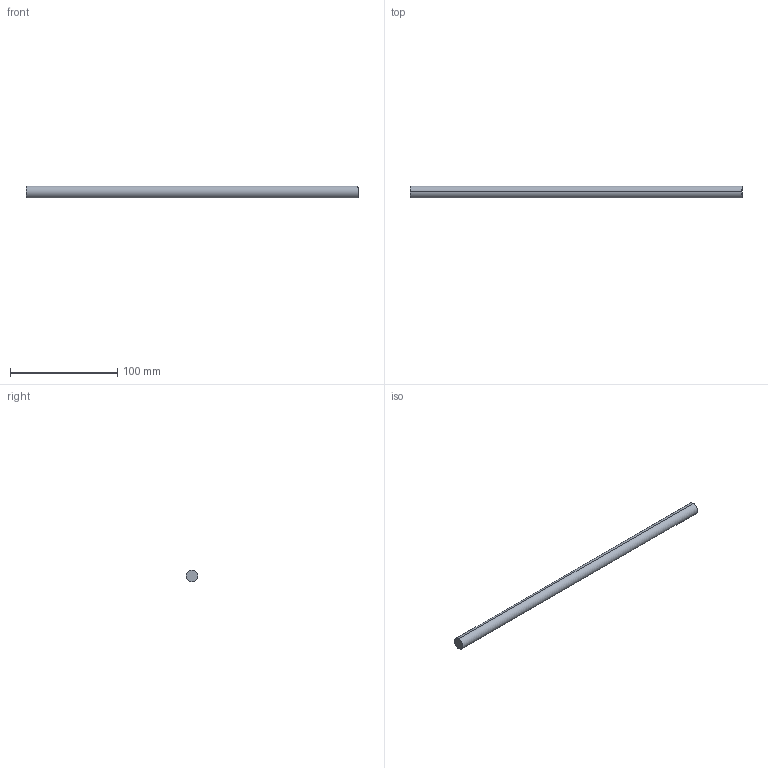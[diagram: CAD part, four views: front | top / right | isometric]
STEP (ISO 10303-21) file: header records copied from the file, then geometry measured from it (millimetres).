
FILE_DESCRIPTION (( 'STEP AP214' ), '1' );
FILE_NAME ('Querreling_Frontblende_Innenlade_KS19_KAB-400.step', '2010-09-22T15:05:32', ( 'grass' ), ( '' ), 'SwSTEP 2.0', 'SolidWorks 2010', '' );
FILE_SCHEMA (( 'AUTOMOTIVE_DESIGN' ));
Length unit declared in the file: millimetre
Products named in the file (1): Querreling_Frontblende_Innenlade_KS19_KAB-400
Bounding box: 309 x 11 x 11 mm (x, y, z)
Volume: 29365.3 mm3; surface area: 10868.3 mm2
Topology: 1 solids, 1 shells, 4 faces, 6 edges, 4 vertices
Faces by surface type: cylinder 2, plane 2
Entity records: 128 total; most frequent: DIRECTION 20, CARTESIAN_POINT 15, ORIENTED_EDGE 12, AXIS2_PLACEMENT_3D 9, EDGE_CURVE 6, VERTEX_POINT 4, ADVANCED_FACE 4, EDGE_LOOP 4
